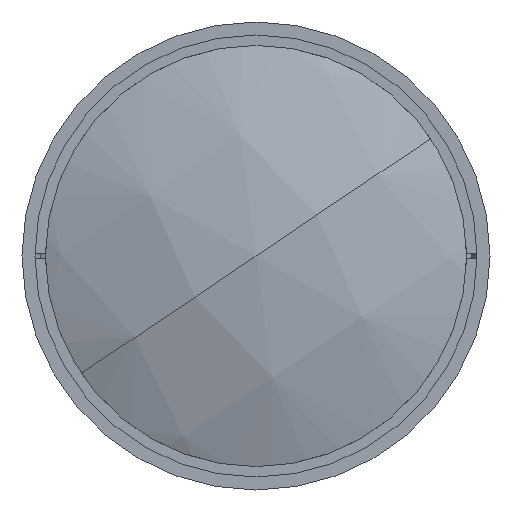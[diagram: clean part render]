
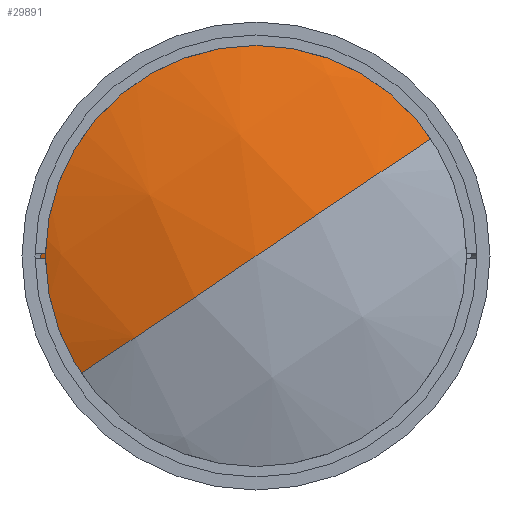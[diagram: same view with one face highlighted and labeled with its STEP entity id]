
A CAD part, left-side view. The second image highlights one B-rep face of the part: STEP entity #29891.
In plain terms, the highlighted spherical face has radius 111.8 mm.
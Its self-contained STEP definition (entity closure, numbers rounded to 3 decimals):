
#472 = SPHERICAL_SURFACE ( 'NONE', #23970, 111.8 ) ;
#855 = CARTESIAN_POINT ( 'NONE',  ( 113.3, 0., 0. ) ) ;
#2679 = AXIS2_PLACEMENT_3D ( 'NONE', #855, #17258, #3224 ) ;
#3224 = DIRECTION ( 'NONE',  ( 0., 0.83, -0.558 ) ) ;
#6887 = EDGE_LOOP ( 'NONE', ( #21385, #15694, #14291 ) ) ;
#8062 = CARTESIAN_POINT ( 'NONE',  ( 113.3, 0., 0. ) ) ;
#8655 = CIRCLE ( 'NONE', #2679, 111.8 ) ;
#9617 = EDGE_CURVE ( 'NONE', #22104, #17947, #16875, .T. ) ;
#10434 = DIRECTION ( 'NONE',  ( 0., -0.83, 0.558 ) ) ;
#11349 = CARTESIAN_POINT ( 'NONE',  ( 113.3, 0., 0. ) ) ;
#12215 = FACE_OUTER_BOUND ( 'NONE', #6887, .T. ) ;
#13455 = DIRECTION ( 'NONE',  ( -1., 0., 0. ) ) ;
#13710 = DIRECTION ( 'NONE',  ( 0., -0.83, 0.558 ) ) ;
#14291 = ORIENTED_EDGE ( 'NONE', *, *, #27153, .F. ) ;
#15071 = CARTESIAN_POINT ( 'NONE',  ( 9.488, -34.435, 23.162 ) ) ;
#15694 = ORIENTED_EDGE ( 'NONE', *, *, #18588, .T. ) ;
#16875 = CIRCLE ( 'NONE', #20389, 41.5 ) ;
#17258 = DIRECTION ( 'NONE',  ( 0., -0.558, -0.83 ) ) ;
#17267 = CARTESIAN_POINT ( 'NONE',  ( 1.5, 0., 0. ) ) ;
#17880 = CARTESIAN_POINT ( 'NONE',  ( 9.488, 34.435, -23.162 ) ) ;
#17947 = VERTEX_POINT ( 'NONE', #17880 ) ;
#18588 = EDGE_CURVE ( 'NONE', #17947, #25354, #27057, .T. ) ;
#20389 = AXIS2_PLACEMENT_3D ( 'NONE', #27528, #13455, #29909 ) ;
#20625 = AXIS2_PLACEMENT_3D ( 'NONE', #11349, #27770, #13710 ) ;
#21385 = ORIENTED_EDGE ( 'NONE', *, *, #9617, .T. ) ;
#22104 = VERTEX_POINT ( 'NONE', #15071 ) ;
#23970 = AXIS2_PLACEMENT_3D ( 'NONE', #8062, #24486, #10434 ) ;
#24486 = DIRECTION ( 'NONE',  ( 0., 0.558, 0.83 ) ) ;
#25354 = VERTEX_POINT ( 'NONE', #17267 ) ;
#27057 = CIRCLE ( 'NONE', #20625, 111.8 ) ;
#27153 = EDGE_CURVE ( 'NONE', #22104, #25354, #8655, .T. ) ;
#27528 = CARTESIAN_POINT ( 'NONE',  ( 9.488, 0., 0. ) ) ;
#27770 = DIRECTION ( 'NONE',  ( 0., 0.558, 0.83 ) ) ;
#29891 = ADVANCED_FACE ( 'NONE', ( #12215 ), #472, .T. ) ;
#29909 = DIRECTION ( 'NONE',  ( 0., 0.558, 0.83 ) ) ;
